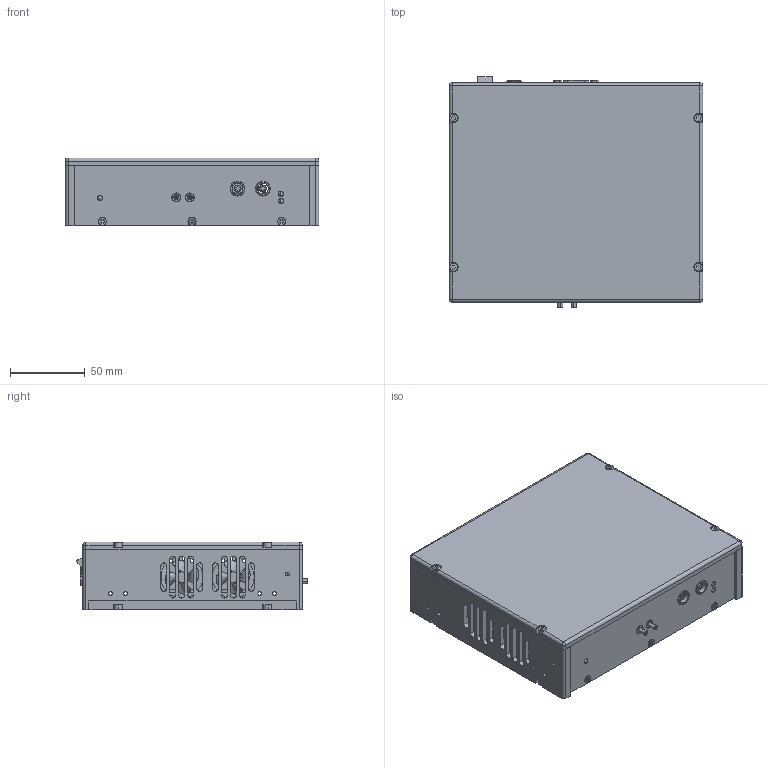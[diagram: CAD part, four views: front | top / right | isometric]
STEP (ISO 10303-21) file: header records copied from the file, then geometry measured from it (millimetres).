
FILE_DESCRIPTION (( 'STEP AP203' ), '1' );
FILE_NAME ('E70.C2K-L.STEP', '2025-07-14T08:30:56', ( 'China' ), ( 'Home' ), 'SwSTEP 2.0', 'SolidWorks 2016', '' );
FILE_SCHEMA (( 'CONFIG_CONTROL_DESIGN' ));
Products named in the file (1): E70.C2K-L
Bounding box: 170 x 154.53 x 45.5 mm (x, y, z)
Surface area: 161380 mm2 (no closed solid volume)
Topology: 0 solids, 48 shells, 827 faces, 3252 edges, 2442 vertices
Faces by surface type: plane 384, cylinder 315, bspline 51, cone 48, torus 16, sphere 13
Entity records: 55703 total; most frequent: CARTESIAN_POINT 27714, DIRECTION 6064, ORIENTED_EDGE 4858, EDGE_CURVE 3231, VERTEX_POINT 2436, AXIS2_PLACEMENT_3D 2188, VECTOR 1688, LINE 1688
